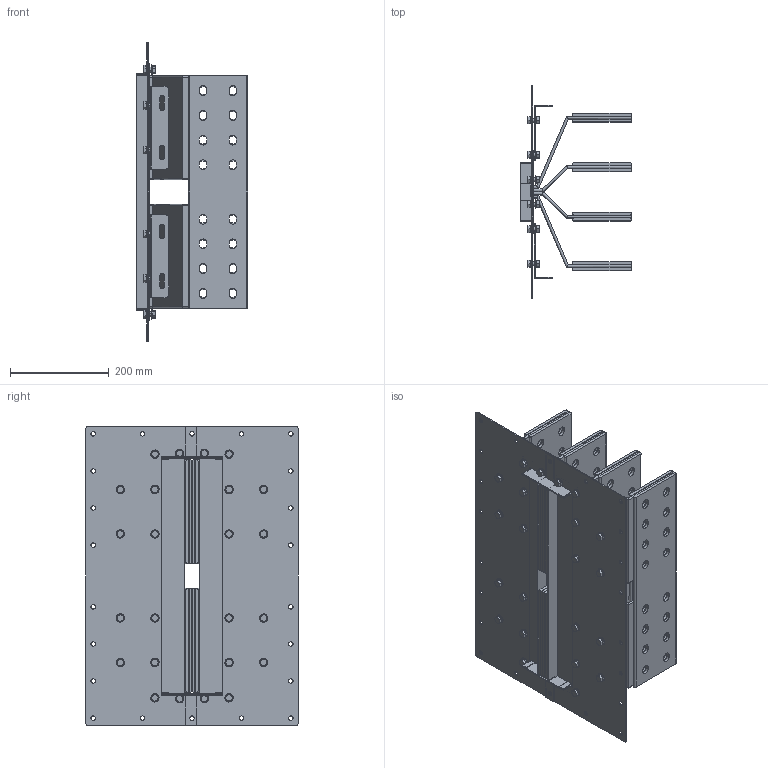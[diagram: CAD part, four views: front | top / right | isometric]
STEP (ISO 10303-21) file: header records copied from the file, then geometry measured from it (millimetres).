
FILE_DESCRIPTION(('CATIA V5 STEP','CAx-IF Rec.Pracs.--- Model Styling and Organization---1.5--- 2016-08-15','CAx-IF Rec.Pracs.---Supplemental Geometry---1.0---2011-11-01','CAx-IF Rec.Pracs.--- Composite Materials ---1.1---2010-07-15'),'2;1');
FILE_NAME('K:\COSCN 2011\32372311_RiduzioneSezioniBarre\03_Studio\__Modelli semplificati\XCP_UB semplificati per studi\XCP-S_UB_4C_Pe_STD_Assieme\Cu\XCP-S_UB_4C_Pe_D_Assieme - 5000A Cu\XCP-S_UB_4C_Pe_D_Assieme - 5000A Cu.stp','2025-05-12T13:21:59+00:00',('Utente Bticino'),('Bticino S.p.A.'),'CATIA Version 5-6 Release 2020 SP5','CATIA V5 STEP AP214 v2','none');
FILE_SCHEMA(('AUTOMOTIVE_DESIGN { 1 0 10303 214 1 1 1 1 }'));
Length unit declared in the file: millimetre
Products named in the file (8): XCP-S_UB_4C_Pe_D_Assieme - 5000A Cu; XCP-S_UB_4C_Pe_D_PaccoBarre_5000 Cu; XCP-S_UB_4C_Pe_D_Lamiere_5000A Cu; XCP-S_UB_4C_Pe_D_PaccoBarre_5000 Cu_1; XCP-S_UB_4C_Pe_D - 5000A Cu_Bandelle parallelo; Ass Vite+dado M8; Steel hex flanged SCREW M12x16; Steel hex flanged NUT M8
Assembly tree (30 placements, depth 3):
  XCP-S_UB_4C_Pe_D_Assieme - 5000A Cu
    XCP-S_UB_4C_Pe_D_PaccoBarre_5000 Cu
    XCP-S_UB_4C_Pe_D_Lamiere_5000A Cu
    XCP-S_UB_4C_Pe_D_PaccoBarre_5000 Cu_1
    XCP-S_UB_4C_Pe_D - 5000A Cu_Bandelle parallelo
    Ass Vite+dado M8  x24
      Steel hex flanged SCREW M12x16
      Steel hex flanged NUT M8
Bounding box: 225 x 430 x 605 mm (x, y, z)
Volume: 5798969.6 mm3; surface area: 2754197.1 mm2
Topology: 74 solids, 74 shells, 2412 faces, 6244 edges, 4028 vertices
Faces by surface type: plane 1064, cylinder 916, cone 192, bspline 192, torus 48
Entity records: 41838 total; most frequent: CARTESIAN_POINT 8328, ORIENTED_EDGE 7612, DIRECTION 5160, EDGE_CURVE 3806, VERTEX_POINT 2510, VECTOR 2408, LINE 2408, AXIS2_PLACEMENT_3D 2034
